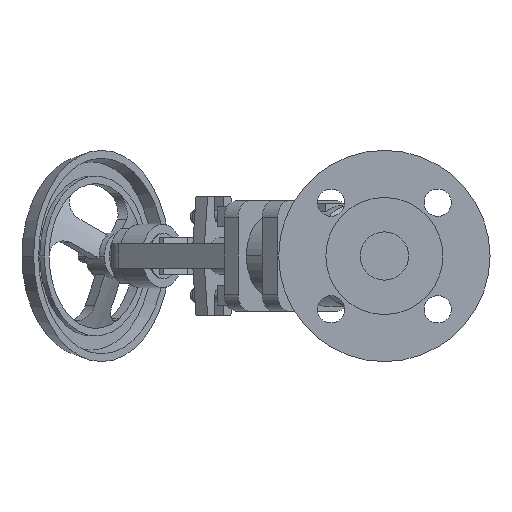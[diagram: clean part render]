
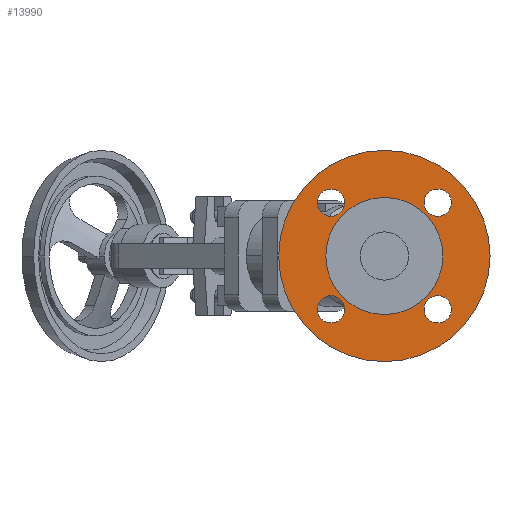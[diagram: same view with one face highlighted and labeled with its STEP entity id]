
A CAD part, left-side view. The second image highlights one B-rep face of the part: STEP entity #13990.
In plain terms, the highlighted planar face has unit normal (-1, 0, 0).
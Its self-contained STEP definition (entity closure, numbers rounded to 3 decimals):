
#3650=CARTESIAN_POINT('',(3.27,-38.77,0.));
#3660=VERTEX_POINT('',#3650);
#3820=CARTESIAN_POINT('',(3.27,38.77,0.));
#3830=VERTEX_POINT('',#3820);
#3860=CARTESIAN_POINT('',(3.27,0.,0.));
#3870=DIRECTION('',(-1.,0.,0.));
#3880=DIRECTION('',(0.,1.,0.));
#3890=AXIS2_PLACEMENT_3D('',#3860,#3870,#3880);
#3900=CIRCLE('',#3890,38.77);
#3910=EDGE_CURVE('',#3660,#3830,#3900,.T.);
#5970=CARTESIAN_POINT('',(3.27,0.,70.));
#5980=VERTEX_POINT('',#5970);
#6030=CARTESIAN_POINT('',(3.27,0.,0.));
#6040=DIRECTION('',(1.,0.,0.));
#6050=DIRECTION('',(0.,0.,-1.));
#6060=AXIS2_PLACEMENT_3D('',#6030,#6040,#6050);
#6070=CIRCLE('',#6060,70.);
#6080=CARTESIAN_POINT('',(3.27,0.,-70.));
#6090=VERTEX_POINT('',#6080);
#6100=EDGE_CURVE('',#6090,#5980,#6070,.T.);
#6460=CARTESIAN_POINT('',(3.27,35.355,-26.355));
#6470=VERTEX_POINT('',#6460);
#6650=CARTESIAN_POINT('',(3.27,35.355,-44.355));
#6660=VERTEX_POINT('',#6650);
#6690=CARTESIAN_POINT('',(3.27,35.355,-35.355));
#6700=DIRECTION('',(-1.,0.,0.));
#6710=DIRECTION('',(0.,0.,-1.));
#6720=AXIS2_PLACEMENT_3D('',#6690,#6700,#6710);
#6730=CIRCLE('',#6720,9.);
#6740=EDGE_CURVE('',#6470,#6660,#6730,.T.);
#6950=CARTESIAN_POINT('',(3.27,-35.355,-26.355));
#6960=VERTEX_POINT('',#6950);
#7010=CARTESIAN_POINT('',(3.27,-35.355,-35.355));
#7020=DIRECTION('',(-1.,0.,0.));
#7030=DIRECTION('',(0.,0.,-1.));
#7040=AXIS2_PLACEMENT_3D('',#7010,#7020,#7030);
#7050=CIRCLE('',#7040,9.);
#7060=CARTESIAN_POINT('',(3.27,-35.355,-44.355));
#7070=VERTEX_POINT('',#7060);
#7080=EDGE_CURVE('',#7070,#6960,#7050,.T.);
#7440=CARTESIAN_POINT('',(3.27,35.355,44.355));
#7450=VERTEX_POINT('',#7440);
#7500=CARTESIAN_POINT('',(3.27,35.355,35.355));
#7510=DIRECTION('',(-1.,0.,0.));
#7520=DIRECTION('',(0.,0.,-1.));
#7530=AXIS2_PLACEMENT_3D('',#7500,#7510,#7520);
#7540=CIRCLE('',#7530,9.);
#7550=CARTESIAN_POINT('',(3.27,35.355,26.355));
#7560=VERTEX_POINT('',#7550);
#7570=EDGE_CURVE('',#7560,#7450,#7540,.T.);
#7930=CARTESIAN_POINT('',(3.27,-35.355,26.355));
#7940=VERTEX_POINT('',#7930);
#7990=CARTESIAN_POINT('',(3.27,-35.355,35.355));
#8000=DIRECTION('',(-1.,0.,0.));
#8010=DIRECTION('',(0.,0.,-1.));
#8020=AXIS2_PLACEMENT_3D('',#7990,#8000,#8010);
#8030=CIRCLE('',#8020,9.);
#8040=CARTESIAN_POINT('',(3.27,-35.355,44.355));
#8050=VERTEX_POINT('',#8040);
#8060=EDGE_CURVE('',#8050,#7940,#8030,.T.);
#13640=CARTESIAN_POINT('',(3.27,0.,0.));
#13650=DIRECTION('',(1.,0.,0.));
#13660=DIRECTION('',(0.,0.,-1.));
#13670=AXIS2_PLACEMENT_3D('',#13640,#13650,#13660);
#13680=PLANE('',#13670);
#13690=ORIENTED_EDGE('',*,*,#8060,.F.);
#13700=EDGE_CURVE('',#7940,#8050,#8030,.T.);
#13710=ORIENTED_EDGE('',*,*,#13700,.F.);
#13720=EDGE_LOOP('',(#13710,#13690));
#13730=FACE_BOUND('',#13720,.T.);
#13740=EDGE_CURVE('',#7450,#7560,#7540,.T.);
#13750=ORIENTED_EDGE('',*,*,#13740,.F.);
#13760=ORIENTED_EDGE('',*,*,#7570,.F.);
#13770=EDGE_LOOP('',(#13760,#13750));
#13780=FACE_BOUND('',#13770,.T.);
#13790=ORIENTED_EDGE('',*,*,#7080,.F.);
#13800=EDGE_CURVE('',#6960,#7070,#7050,.T.);
#13810=ORIENTED_EDGE('',*,*,#13800,.F.);
#13820=EDGE_LOOP('',(#13810,#13790));
#13830=FACE_BOUND('',#13820,.T.);
#13840=EDGE_CURVE('',#6660,#6470,#6730,.T.);
#13850=ORIENTED_EDGE('',*,*,#13840,.F.);
#13860=ORIENTED_EDGE('',*,*,#6740,.F.);
#13870=EDGE_LOOP('',(#13860,#13850));
#13880=FACE_BOUND('',#13870,.T.);
#13890=ORIENTED_EDGE('',*,*,#6100,.F.);
#13900=EDGE_CURVE('',#5980,#6090,#6070,.T.);
#13910=ORIENTED_EDGE('',*,*,#13900,.F.);
#13920=EDGE_LOOP('',(#13910,#13890));
#13930=FACE_OUTER_BOUND('',#13920,.T.);
#13940=EDGE_CURVE('',#3830,#3660,#3900,.T.);
#13950=ORIENTED_EDGE('',*,*,#13940,.F.);
#13960=ORIENTED_EDGE('',*,*,#3910,.F.);
#13970=EDGE_LOOP('',(#13960,#13950));
#13980=FACE_BOUND('',#13970,.T.);
#13990=ADVANCED_FACE('',(#13730,#13780,#13830,#13880,#13930,#13980),
#13680,.F.);
